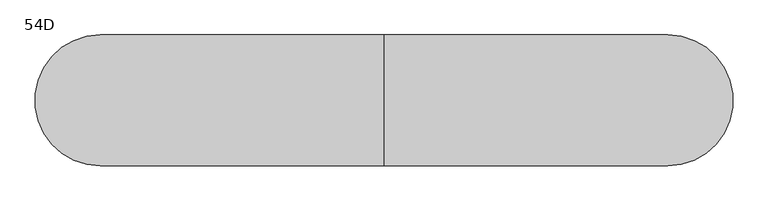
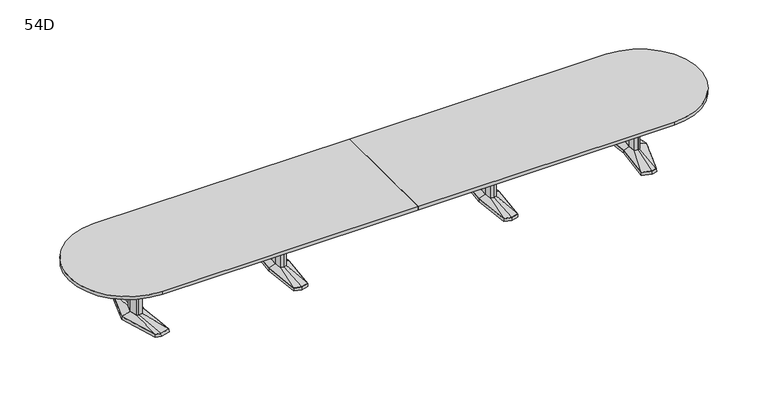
"""IFC4 building model written with IfcOpenShell, lengths in millimetres: furniture geometry, Coalesse_AM_Table_Conference_ETable2_Racetrack_24ft_AluminiumBase : 54D."""

from ifc_helpers import new_model, si_unit, point, frame, frame_2d, origin, place, context, project, spatial, polyline, circle_curve, trimmed, segment, composite_curve, outline, extrude, faceted_brep, source, transform, mapped, element, save
from ifc_brep_helpers import plane_surface, spline_surface, advanced_brep


def furniture_54d_8884b3d5(model_context):
    return source(origin(), model_context, "Body", "SolidModel", [
        faceted_brep([(1137.9666209, -433.8053819, 38.1), (1219.2, -455.556576, 38.1), (1300.4333791, -433.8053819, 38.1), (1338.2564774, 0.0, 38.1), (1300.4333791, 433.8053819, 38.1), (1219.2, 455.556576, 38.1), (1137.9666209, 433.8053819, 38.1), (1100.1435226, 0.0, 38.1), (1136.4817205, -435.0512063, 3.175), (1098.55, 0.0, 3.175), (1136.4817205, 435.0512063, 3.175), (1219.2, 457.2, 3.175), (1301.9182795, 435.0512063, 3.175), (1339.85, 0.0, 3.175), (1301.9182795, -435.0512063, 3.175), (1219.2, -457.2, 3.175), (1219.2, 429.2617927, 3.175), (1141.2323194, 408.3850278, 3.175), (1144.4980179, 382.9646737, 3.175), (1219.2, 402.9670094, 3.175), (1293.9019821, 382.9646737, 3.175), (1297.1676806, 408.3850278, 3.175), (1219.2, -429.2617927, 3.175), (1297.1676806, -408.3850278, 3.175), (1293.9019821, -382.9646737, 3.175), (1219.2, -402.9670094, 3.175), (1144.4980179, -382.9646737, 3.175), (1141.2323194, -408.3850278, 3.175), (1147.3425738, 114.6326257, 3.175), (1136.6573924, 0.0, 3.175), (1147.3425738, -114.6326257, 3.175), (1219.2, -133.8761372, 3.175), (1291.0574262, -114.6326257, 3.175), (1301.7426076, 0.0, 3.175), (1291.0574262, 114.6326257, 3.175), (1219.2, 133.8761372, 3.175), (1219.2, 429.2617927, 0.0), (1297.1676806, 408.3850278, 0.0), (1293.9019821, 382.9646737, 0.0), (1219.2, 402.9670094, 0.0), (1144.4980179, 382.9646737, 0.0), (1141.2323194, 408.3850278, 0.0), (1219.2, -429.2617927, 0.0), (1141.2323194, -408.3850278, 0.0), (1144.4980179, -382.9646737, 0.0), (1219.2, -402.9670094, 0.0), (1293.9019821, -382.9646737, 0.0), (1297.1676806, -408.3850278, 0.0), (1147.3425738, 114.6326257, 0.0), (1219.2, 133.8761372, 0.0), (1291.0574262, 114.6326257, 0.0), (1301.7426076, 0.0, 0.0), (1291.0574262, -114.6326257, 0.0), (1219.2, -133.8761372, 0.0), (1147.3425738, -114.6326257, 0.0), (1136.6573924, 0.0, 0.0)], [[[0, 1, 2, 3, 4, 5, 6, 7]], [[8, 9, 10, 11, 12, 13, 14, 15], [16, 17, 18, 19, 20, 21], [22, 23, 24, 25, 26, 27], [28, 29, 30, 31, 32, 33, 34, 35]], [[1, 0, 8, 15]], [[2, 1, 15, 14]], [[3, 2, 14, 13]], [[4, 3, 13, 12]], [[5, 4, 12, 11]], [[6, 5, 11, 10]], [[7, 6, 10, 9]], [[0, 7, 9, 8]], [[36, 37, 38, 39, 40, 41]], [[42, 43, 44, 45, 46, 47]], [[48, 49, 50, 51, 52, 53, 54, 55]], [[36, 41, 17, 16]], [[41, 40, 18, 17]], [[40, 39, 19, 18]], [[39, 38, 20, 19]], [[38, 37, 21, 20]], [[37, 36, 16, 21]], [[42, 47, 23, 22]], [[47, 46, 24, 23]], [[46, 45, 25, 24]], [[45, 44, 26, 25]], [[44, 43, 27, 26]], [[43, 42, 22, 27]], [[48, 55, 29, 28]], [[55, 54, 30, 29]], [[54, 53, 31, 30]], [[53, 52, 32, 31]], [[52, 51, 33, 32]], [[51, 50, 34, 33]], [[50, 49, 35, 34]], [[49, 48, 28, 35]]]),
        faceted_brep([(1182.8167166, 84.6900825, 698.5), (1174.9225513, 0.0, 698.5), (1182.8167166, -84.6900825, 698.5), (1219.2, -94.4335728, 698.5), (1255.5832834, -84.6900825, 698.5), (1263.4774487, 0.0, 698.5), (1255.5832834, 84.6900825, 698.5), (1219.2, 94.4335728, 698.5), (1182.8167166, 84.6900825, 63.5), (1219.2, 94.4335728, 63.5), (1255.5832834, 84.6900825, 63.5), (1263.4774487, 0.0, 63.5), (1255.5832834, -84.6900825, 63.5), (1219.2, -94.4335728, 63.5), (1182.8167166, -84.6900825, 63.5), (1174.9225513, 0.0, 63.5)], [[[0, 1, 2, 3, 4, 5, 6, 7]], [[8, 9, 10, 11, 12, 13, 14, 15]], [[1, 0, 8, 15]], [[2, 1, 15, 14]], [[3, 2, 14, 13]], [[4, 3, 13, 12]], [[5, 4, 12, 11]], [[6, 5, 11, 10]], [[7, 6, 10, 9]], [[0, 7, 9, 8]]]),
        advanced_brep(
        [(1182.8167166, 84.6900825, 63.5), (1174.9225513, 0.0, 63.5), (1182.8167166, -84.6900825, 63.5), (1219.2, -94.4335728, 63.5), (1255.5832834, -84.6900825, 63.5), (1263.4774487, 0.0, 63.5), (1255.5832834, 84.6900825, 63.5), (1219.2, 94.4335728, 63.5), (1137.9666209, 433.8053819, 38.1), (1219.2, 455.556576, 38.1), (1300.4333791, 433.8053819, 38.1), (1338.2564774, 0.0, 38.1), (1300.4333791, -433.8053819, 38.1), (1219.2, -455.556576, 38.1), (1137.9666209, -433.8053819, 38.1), (1100.1435226, 0.0, 38.1)],
        [
            (0, 1),
            (1, 2),
            (2, 3),
            (3, 4),
            (4, 5),
            (5, 6),
            (6, 7),
            (7, 0),
            (8, 9),
            (9, 10),
            (10, 11),
            (11, 12),
            (12, 13),
            (13, 14),
            (14, 15),
            (15, 8),
            (15, 1),
            (0, 8),
            (14, 2),
            (13, 3),
            (12, 4),
            (11, 5),
            (10, 6),
            (9, 7),
        ],
        [
            plane_surface(frame((1219.2, 0.0, 63.5), z_axis=(0.0, 0.0, 1.0000000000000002), x_axis=(-0.9659615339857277, -0.25868574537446, 0.0))),
            plane_surface(frame((1219.2, 0.0, 38.1), z_axis=(0.0, 0.0, -1.0000000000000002), x_axis=(-0.9659615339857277, -0.25868574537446, 0.0))),
            spline_surface(1, 1, [[(1137.9666209, 433.8053819, 38.1), (1182.8167166, 84.6900825, 63.5)], [(1100.1435226, 0.0, 38.1), (1174.9225513, 0.0, 63.5)]], [2, 2], [2, 2], [0.0, 1.0], [0.0, 1.0]),
            spline_surface(1, 1, [[(1100.1435226, 0.0, 38.1), (1174.9225513, 0.0, 63.5)], [(1137.9666209, -433.8053819, 38.1), (1182.8167166, -84.6900825, 63.5)]], [2, 2], [2, 2], [0.0, 1.0], [0.0, 1.0]),
            spline_surface(1, 1, [[(1137.9666209, -433.8053819, 38.1), (1182.8167166, -84.6900825, 63.5)], [(1219.2, -455.556576, 38.1), (1219.2, -94.4335728, 63.5)]], [2, 2], [2, 2], [0.0, 1.0], [0.0, 1.0]),
            spline_surface(1, 1, [[(1219.2, -455.556576, 38.1), (1219.2, -94.4335728, 63.5)], [(1300.4333791, -433.8053819, 38.1), (1255.5832834, -84.6900825, 63.5)]], [2, 2], [2, 2], [0.0, 1.0], [0.0, 1.0]),
            spline_surface(1, 1, [[(1300.4333791, -433.8053819, 38.1), (1255.5832834, -84.6900825, 63.5)], [(1338.2564774, 0.0, 38.1), (1263.4774487, 0.0, 63.5)]], [2, 2], [2, 2], [0.0, 1.0], [0.0, 1.0]),
            spline_surface(1, 1, [[(1338.2564774, 0.0, 38.1), (1263.4774487, 0.0, 63.5)], [(1300.4333791, 433.8053819, 38.1), (1255.5832834, 84.6900825, 63.5)]], [2, 2], [2, 2], [0.0, 1.0], [0.0, 1.0]),
            spline_surface(1, 1, [[(1300.4333791, 433.8053819, 38.1), (1255.5832834, 84.6900825, 63.5)], [(1219.2, 455.556576, 38.1), (1219.2, 94.4335728, 63.5)]], [2, 2], [2, 2], [0.0, 1.0], [0.0, 1.0]),
            spline_surface(1, 1, [[(1219.2, 455.556576, 38.1), (1219.2, 94.4335728, 63.5)], [(1137.9666209, 433.8053819, 38.1), (1182.8167166, 84.6900825, 63.5)]], [2, 2], [2, 2], [0.0, 1.0], [0.0, 1.0]),
        ],
        [
            (0, [[1, 2, 3, 4, 5, 6, 7, 8]]),
            (1, [[9, 10, 11, 12, 13, 14, 15, 16]]),
            (2, [[-16, 17, -1, 18]]),
            (3, [[-15, 19, -2, -17]]),
            (4, [[-14, 20, -3, -19]]),
            (5, [[-13, 21, -4, -20]]),
            (6, [[-12, 22, -5, -21]]),
            (7, [[-11, 23, -6, -22]]),
            (8, [[-10, 24, -7, -23]]),
            (9, [[-9, -18, -8, -24]]),
        ],
    ),
        faceted_brep([(-1300.4333791, -433.8053819, 38.1), (-1219.2, -455.556576, 38.1), (-1137.9666209, -433.8053819, 38.1), (-1100.1435226, 0.0, 38.1), (-1137.9666209, 433.8053819, 38.1), (-1219.2, 455.556576, 38.1), (-1300.4333791, 433.8053819, 38.1), (-1338.2564774, 0.0, 38.1), (-1301.9182795, -435.0512063, 3.175), (-1339.85, 0.0, 3.175), (-1301.9182795, 435.0512063, 3.175), (-1219.2, 457.2, 3.175), (-1136.4817205, 435.0512063, 3.175), (-1098.55, 0.0, 3.175), (-1136.4817205, -435.0512063, 3.175), (-1219.2, -457.2, 3.175), (-1219.2, 429.2617927, 3.175), (-1297.1676806, 408.3850278, 3.175), (-1293.9019821, 382.9646737, 3.175), (-1219.2, 402.9670094, 3.175), (-1144.4980179, 382.9646737, 3.175), (-1141.2323194, 408.3850278, 3.175), (-1219.2, -429.2617927, 3.175), (-1141.2323194, -408.3850278, 3.175), (-1144.4980179, -382.9646737, 3.175), (-1219.2, -402.9670094, 3.175), (-1293.9019821, -382.9646737, 3.175), (-1297.1676806, -408.3850278, 3.175), (-1291.0574262, 114.6326257, 3.175), (-1301.7426076, 0.0, 3.175), (-1291.0574262, -114.6326257, 3.175), (-1219.2, -133.8761372, 3.175), (-1147.3425738, -114.6326257, 3.175), (-1136.6573924, 0.0, 3.175), (-1147.3425738, 114.6326257, 3.175), (-1219.2, 133.8761372, 3.175), (-1219.2, 429.2617927, 0.0), (-1141.2323194, 408.3850278, 0.0), (-1144.4980179, 382.9646737, 0.0), (-1219.2, 402.9670094, 0.0), (-1293.9019821, 382.9646737, 0.0), (-1297.1676806, 408.3850278, 0.0), (-1219.2, -429.2617927, 0.0), (-1297.1676806, -408.3850278, 0.0), (-1293.9019821, -382.9646737, 0.0), (-1219.2, -402.9670094, 0.0), (-1144.4980179, -382.9646737, 0.0), (-1141.2323194, -408.3850278, 0.0), (-1291.0574262, 114.6326257, 0.0), (-1219.2, 133.8761372, 0.0), (-1147.3425738, 114.6326257, 0.0), (-1136.6573924, 0.0, 0.0), (-1147.3425738, -114.6326257, 0.0), (-1219.2, -133.8761372, 0.0), (-1291.0574262, -114.6326257, 0.0), (-1301.7426076, 0.0, 0.0)], [[[0, 1, 2, 3, 4, 5, 6, 7]], [[8, 9, 10, 11, 12, 13, 14, 15], [16, 17, 18, 19, 20, 21], [22, 23, 24, 25, 26, 27], [28, 29, 30, 31, 32, 33, 34, 35]], [[1, 0, 8, 15]], [[2, 1, 15, 14]], [[3, 2, 14, 13]], [[4, 3, 13, 12]], [[5, 4, 12, 11]], [[6, 5, 11, 10]], [[7, 6, 10, 9]], [[0, 7, 9, 8]], [[36, 37, 38, 39, 40, 41]], [[42, 43, 44, 45, 46, 47]], [[48, 49, 50, 51, 52, 53, 54, 55]], [[36, 41, 17, 16]], [[41, 40, 18, 17]], [[40, 39, 19, 18]], [[39, 38, 20, 19]], [[38, 37, 21, 20]], [[37, 36, 16, 21]], [[42, 47, 23, 22]], [[47, 46, 24, 23]], [[46, 45, 25, 24]], [[45, 44, 26, 25]], [[44, 43, 27, 26]], [[43, 42, 22, 27]], [[48, 55, 29, 28]], [[55, 54, 30, 29]], [[54, 53, 31, 30]], [[53, 52, 32, 31]], [[52, 51, 33, 32]], [[51, 50, 34, 33]], [[50, 49, 35, 34]], [[49, 48, 28, 35]]]),
        faceted_brep([(-1255.5832834, 84.6900825, 698.5), (-1263.4774487, 0.0, 698.5), (-1255.5832834, -84.6900825, 698.5), (-1219.2, -94.4335728, 698.5), (-1182.8167166, -84.6900825, 698.5), (-1174.9225513, 0.0, 698.5), (-1182.8167166, 84.6900825, 698.5), (-1219.2, 94.4335728, 698.5), (-1255.5832834, 84.6900825, 63.5), (-1219.2, 94.4335728, 63.5), (-1182.8167166, 84.6900825, 63.5), (-1174.9225513, 0.0, 63.5), (-1182.8167166, -84.6900825, 63.5), (-1219.2, -94.4335728, 63.5), (-1255.5832834, -84.6900825, 63.5), (-1263.4774487, 0.0, 63.5)], [[[0, 1, 2, 3, 4, 5, 6, 7]], [[8, 9, 10, 11, 12, 13, 14, 15]], [[1, 0, 8, 15]], [[2, 1, 15, 14]], [[3, 2, 14, 13]], [[4, 3, 13, 12]], [[5, 4, 12, 11]], [[6, 5, 11, 10]], [[7, 6, 10, 9]], [[0, 7, 9, 8]]]),
        advanced_brep(
        [(-1255.5832834, 84.6900825, 63.5), (-1263.4774487, 0.0, 63.5), (-1255.5832834, -84.6900825, 63.5), (-1219.2, -94.4335728, 63.5), (-1182.8167166, -84.6900825, 63.5), (-1174.9225513, 0.0, 63.5), (-1182.8167166, 84.6900825, 63.5), (-1219.2, 94.4335728, 63.5), (-1300.4333791, 433.8053819, 38.1), (-1219.2, 455.556576, 38.1), (-1137.9666209, 433.8053819, 38.1), (-1100.1435226, 0.0, 38.1), (-1137.9666209, -433.8053819, 38.1), (-1219.2, -455.556576, 38.1), (-1300.4333791, -433.8053819, 38.1), (-1338.2564774, 0.0, 38.1)],
        [
            (0, 1),
            (1, 2),
            (2, 3),
            (3, 4),
            (4, 5),
            (5, 6),
            (6, 7),
            (7, 0),
            (8, 9),
            (9, 10),
            (10, 11),
            (11, 12),
            (12, 13),
            (13, 14),
            (14, 15),
            (15, 8),
            (15, 1),
            (0, 8),
            (14, 2),
            (13, 3),
            (12, 4),
            (11, 5),
            (10, 6),
            (9, 7),
        ],
        [
            plane_surface(frame((-1219.2, 0.0, 63.5), z_axis=(0.0, 0.0, 1.0000000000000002), x_axis=(-0.9659615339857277, -0.25868574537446, 0.0))),
            plane_surface(frame((-1219.2, 0.0, 38.1), z_axis=(0.0, 0.0, -1.0000000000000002), x_axis=(-0.9659615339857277, -0.25868574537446, 0.0))),
            spline_surface(1, 1, [[(-1300.4333791, 433.8053819, 38.1), (-1255.5832834, 84.6900825, 63.5)], [(-1338.2564774, 0.0, 38.1), (-1263.4774487, 0.0, 63.5)]], [2, 2], [2, 2], [0.0, 1.0], [0.0, 1.0]),
            spline_surface(1, 1, [[(-1338.2564774, 0.0, 38.1), (-1263.4774487, 0.0, 63.5)], [(-1300.4333791, -433.8053819, 38.1), (-1255.5832834, -84.6900825, 63.5)]], [2, 2], [2, 2], [0.0, 1.0], [0.0, 1.0]),
            spline_surface(1, 1, [[(-1300.4333791, -433.8053819, 38.1), (-1255.5832834, -84.6900825, 63.5)], [(-1219.2, -455.556576, 38.1), (-1219.2, -94.4335728, 63.5)]], [2, 2], [2, 2], [0.0, 1.0], [0.0, 1.0]),
            spline_surface(1, 1, [[(-1219.2, -455.556576, 38.1), (-1219.2, -94.4335728, 63.5)], [(-1137.9666209, -433.8053819, 38.1), (-1182.8167166, -84.6900825, 63.5)]], [2, 2], [2, 2], [0.0, 1.0], [0.0, 1.0]),
            spline_surface(1, 1, [[(-1137.9666209, -433.8053819, 38.1), (-1182.8167166, -84.6900825, 63.5)], [(-1100.1435226, 0.0, 38.1), (-1174.9225513, 0.0, 63.5)]], [2, 2], [2, 2], [0.0, 1.0], [0.0, 1.0]),
            spline_surface(1, 1, [[(-1100.1435226, 0.0, 38.1), (-1174.9225513, 0.0, 63.5)], [(-1137.9666209, 433.8053819, 38.1), (-1182.8167166, 84.6900825, 63.5)]], [2, 2], [2, 2], [0.0, 1.0], [0.0, 1.0]),
            spline_surface(1, 1, [[(-1137.9666209, 433.8053819, 38.1), (-1182.8167166, 84.6900825, 63.5)], [(-1219.2, 455.556576, 38.1), (-1219.2, 94.4335728, 63.5)]], [2, 2], [2, 2], [0.0, 1.0], [0.0, 1.0]),
            spline_surface(1, 1, [[(-1219.2, 455.556576, 38.1), (-1219.2, 94.4335728, 63.5)], [(-1300.4333791, 433.8053819, 38.1), (-1255.5832834, 84.6900825, 63.5)]], [2, 2], [2, 2], [0.0, 1.0], [0.0, 1.0]),
        ],
        [
            (0, [[1, 2, 3, 4, 5, 6, 7, 8]]),
            (1, [[9, 10, 11, 12, 13, 14, 15, 16]]),
            (2, [[-16, 17, -1, 18]]),
            (3, [[-15, 19, -2, -17]]),
            (4, [[-14, 20, -3, -19]]),
            (5, [[-13, 21, -4, -20]]),
            (6, [[-12, 22, -5, -21]]),
            (7, [[-11, 23, -6, -22]]),
            (8, [[-10, 24, -7, -23]]),
            (9, [[-9, -18, -8, -24]]),
        ],
    ),
        faceted_brep([(2852.8994335, 455.5848221, 38.1), (2743.3218777, 426.2263816, 38.1), (2784.4851217, 0.0, 38.1), (2743.3218777, -426.2263816, 38.1), (2852.8994335, -455.5848221, 38.1), (2909.0257896, -440.5478297, 38.1), (3046.3371769, 0.0, 38.1), (2909.0257896, 440.5478297, 38.1), (2852.8994254, 457.2283104, 3.175), (2910.2811972, 441.8549756, 3.175), (3048.0, 0.0, 3.175), (2910.2811972, -441.8549756, 3.175), (2852.8994254, -457.2283104, 3.175), (2741.6125, -427.4118891, 3.175), (2782.8902356, 0.0, 3.175), (2741.6125, 427.4118891, 3.175), (2856.488865, 428.3273875, 3.175), (2751.4405728, 402.1057253, 3.175), (2759.559268, 377.985069, 3.175), (2860.0782966, 401.0699529, 3.175), (2910.6379225, 387.524361, 3.175), (2909.8318561, 414.0360954, 3.175), (2856.488865, -428.3273875, 3.175), (2909.8318561, -414.0360954, 3.175), (2910.6379225, -387.524361, 3.175), (2860.0782966, -401.0699529, 3.175), (2759.559268, -377.985069, 3.175), (2751.4405728, -402.1057253, 3.175), (2983.0841121, 0.0, 3.175), (2950.8147111, 120.4193755, 3.175), (2902.1674722, 133.471665, 3.175), (2822.2868026, 119.4176561, 3.175), (2811.1555966, 0.0, 3.175), (2822.2868026, -119.4176561, 3.175), (2902.1674722, -133.471665, 3.175), (2950.8147111, -120.4193755, 3.175), (2856.488865, 428.3273875, 0.0), (2909.8318561, 414.0360954, 0.0), (2910.6379225, 387.524361, 0.0), (2860.0782966, 401.0699529, 0.0), (2759.559268, 377.985069, 0.0), (2751.4405728, 402.1057253, 0.0), (2856.488865, -428.3273875, 0.0), (2751.4405728, -402.1057253, 0.0), (2759.559268, -377.985069, 0.0), (2860.0782966, -401.0699529, 0.0), (2910.6379225, -387.524361, 0.0), (2909.8318561, -414.0360954, 0.0), (2983.0841121, 0.0, 0.0), (2950.8147111, -120.4193755, 0.0), (2902.1674722, -133.471665, 0.0), (2822.2868026, -119.4176561, 0.0), (2811.1555966, 0.0, 0.0), (2822.2868026, 119.4176561, 0.0), (2902.1674722, 133.471665, 0.0), (2950.8147111, 120.4193755, 0.0)], [[[0, 1, 2, 3, 4, 5, 6, 7]], [[8, 9, 10, 11, 12, 13, 14, 15], [16, 17, 18, 19, 20, 21], [22, 23, 24, 25, 26, 27], [28, 29, 30, 31, 32, 33, 34, 35]], [[7, 9, 8, 0]], [[6, 10, 9, 7]], [[5, 11, 10, 6]], [[4, 12, 11, 5]], [[3, 13, 12, 4]], [[2, 14, 13, 3]], [[1, 15, 14, 2]], [[0, 8, 15, 1]], [[36, 37, 38, 39, 40, 41]], [[42, 43, 44, 45, 46, 47]], [[48, 49, 50, 51, 52, 53, 54, 55]], [[36, 16, 21, 37]], [[37, 21, 20, 38]], [[38, 20, 19, 39]], [[39, 19, 18, 40]], [[40, 18, 17, 41]], [[41, 17, 16, 36]], [[42, 22, 27, 43]], [[43, 27, 26, 44]], [[44, 26, 25, 45]], [[45, 25, 24, 46]], [[46, 24, 23, 47]], [[47, 23, 22, 42]], [[48, 28, 35, 49]], [[49, 35, 34, 50]], [[50, 34, 33, 51]], [[51, 33, 32, 52]], [[52, 32, 31, 53]], [[53, 31, 30, 54]], [[54, 30, 29, 55]], [[55, 29, 28, 48]]]),
        faceted_brep([(2943.6398336, 0.0, 698.5), (2919.7046046, 89.3188359, 698.5), (2902.8512484, 93.8406728, 698.5), (2900.4514011, 94.4845635, 698.5), (2857.523896, 86.9320037, 698.5), (2849.4207556, 0.0, 698.5), (2857.523896, -86.9320037, 698.5), (2900.4514011, -94.4845635, 698.5), (2902.8512484, -93.8406728, 698.5), (2919.7046046, -89.3188359, 698.5), (2943.6398336, 0.0, 63.5), (2919.7046046, -89.3188359, 63.5), (2902.8512484, -93.8406728, 63.5), (2900.4514011, -94.4845635, 63.5), (2857.523896, -86.9320037, 63.5), (2849.4207556, 0.0, 63.5), (2857.523896, 86.9320037, 63.5), (2900.4514011, 94.4845635, 63.5), (2902.8512484, 93.8406728, 63.5), (2919.7046046, 89.3188359, 63.5)], [[[0, 1, 2, 3, 4, 5, 6, 7, 8, 9]], [[10, 11, 12, 13, 14, 15, 16, 17, 18, 19]], [[9, 11, 10, 0]], [[8, 12, 11, 9]], [[7, 13, 12, 8]], [[6, 14, 13, 7]], [[5, 15, 14, 6]], [[4, 16, 15, 5]], [[3, 17, 16, 4]], [[2, 18, 17, 3]], [[1, 19, 18, 2]], [[0, 10, 19, 1]]]),
        advanced_brep(
        [(2900.4514011, 94.4845635, 63.5), (2857.523896, 86.9320037, 63.5), (2849.4207556, 0.0, 63.5), (2857.523896, -86.9320037, 63.5), (2900.4514011, -94.4845635, 63.5), (2919.7046046, -89.3188359, 63.5), (2943.6398336, 0.0, 63.5), (2919.7046046, 89.3188359, 63.5), (2852.8994335, 455.5848221, 38.1), (2909.0257896, 440.5478297, 38.1), (3046.3371769, 0.0, 38.1), (2909.0257896, -440.5478297, 38.1), (2852.8994335, -455.5848221, 38.1), (2743.3218777, -426.2263816, 38.1), (2784.4851217, 0.0, 38.1), (2743.3218777, 426.2263816, 38.1)],
        [
            (0, 1),
            (1, 2),
            (2, 3),
            (3, 4),
            (4, 5),
            (5, 6),
            (6, 7),
            (7, 0),
            (8, 9),
            (9, 10),
            (10, 11),
            (11, 12),
            (12, 13),
            (13, 14),
            (14, 15),
            (15, 8),
            (8, 0),
            (7, 9),
            (6, 10),
            (5, 11),
            (4, 12),
            (3, 13),
            (2, 14),
            (1, 15),
        ],
        [
            plane_surface(frame((2893.5525491, 0.0, 63.5), z_axis=(0.0, 0.0, 1.0), x_axis=(-0.25884244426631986, -0.9659195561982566, 0.0))),
            plane_surface(frame((2855.1645625, 0.0, 38.1), z_axis=(0.0, 0.0, -1.0), x_axis=(-0.25884244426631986, -0.9659195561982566, 0.0))),
            spline_surface(1, 1, [[(2852.8994335, 455.5848221, 38.1), (2909.0257896, 440.5478297, 38.1)], [(2900.4514011, 94.4845635, 63.5), (2919.7046046, 89.3188359, 63.5)]], [2, 2], [2, 2], [0.0, 1.0], [0.0, 1.0]),
            spline_surface(1, 1, [[(2909.0257896, 440.5478297, 38.1), (3046.3371769, 0.0, 38.1)], [(2919.7046046, 89.3188359, 63.5), (2943.6398336, 0.0, 63.5)]], [2, 2], [2, 2], [0.0, 1.0], [0.0, 1.0]),
            spline_surface(1, 1, [[(3046.3371769, 0.0, 38.1), (2909.0257896, -440.5478297, 38.1)], [(2943.6398336, 0.0, 63.5), (2919.7046046, -89.3188359, 63.5)]], [2, 2], [2, 2], [0.0, 1.0], [0.0, 1.0]),
            spline_surface(1, 1, [[(2909.0257896, -440.5478297, 38.1), (2852.8994335, -455.5848221, 38.1)], [(2919.7046046, -89.3188359, 63.5), (2900.4514011, -94.4845635, 63.5)]], [2, 2], [2, 2], [0.0, 1.0], [0.0, 1.0]),
            spline_surface(1, 1, [[(2852.8994335, -455.5848221, 38.1), (2743.3218777, -426.2263816, 38.1)], [(2900.4514011, -94.4845635, 63.5), (2857.523896, -86.9320037, 63.5)]], [2, 2], [2, 2], [0.0, 1.0], [0.0, 1.0]),
            spline_surface(1, 1, [[(2743.3218777, -426.2263816, 38.1), (2784.4851217, 0.0, 38.1)], [(2857.523896, -86.9320037, 63.5), (2849.4207556, 0.0, 63.5)]], [2, 2], [2, 2], [0.0, 1.0], [0.0, 1.0]),
            spline_surface(1, 1, [[(2784.4851217, 0.0, 38.1), (2743.3218777, 426.2263816, 38.1)], [(2849.4207556, 0.0, 63.5), (2857.523896, 86.9320037, 63.5)]], [2, 2], [2, 2], [0.0, 1.0], [0.0, 1.0]),
            spline_surface(1, 1, [[(2743.3218777, 426.2263816, 38.1), (2852.8994335, 455.5848221, 38.1)], [(2857.523896, 86.9320037, 63.5), (2900.4514011, 94.4845635, 63.5)]], [2, 2], [2, 2], [0.0, 1.0], [0.0, 1.0]),
        ],
        [
            (0, [[1, 2, 3, 4, 5, 6, 7, 8]]),
            (1, [[9, 10, 11, 12, 13, 14, 15, 16]]),
            (2, [[17, -8, 18, -9]]),
            (3, [[-18, -7, 19, -10]]),
            (4, [[-19, -6, 20, -11]]),
            (5, [[-20, -5, 21, -12]]),
            (6, [[-21, -4, 22, -13]]),
            (7, [[-22, -3, 23, -14]]),
            (8, [[-23, -2, 24, -15]]),
            (9, [[-24, -1, -17, -16]]),
        ],
    ),
        faceted_brep([(-2852.8994335, 455.5848221, 38.1), (-2909.0257896, 440.5478297, 38.1), (-3046.3371769, 0.0, 38.1), (-2909.0257896, -440.5478297, 38.1), (-2852.8994335, -455.5848221, 38.1), (-2743.3218777, -426.2263816, 38.1), (-2784.4851217, 0.0, 38.1), (-2743.3218777, 426.2263816, 38.1), (-2852.8994254, 457.2283104, 3.175), (-2741.6125, 427.4118891, 3.175), (-2782.8902356, 0.0, 3.175), (-2741.6125, -427.4118891, 3.175), (-2852.8994254, -457.2283104, 3.175), (-2910.2811972, -441.8549756, 3.175), (-3048.0, 0.0, 3.175), (-2910.2811972, 441.8549756, 3.175), (-2856.488865, 428.3273875, 3.175), (-2909.8318561, 414.0360954, 3.175), (-2910.6379225, 387.524361, 3.175), (-2860.0782966, 401.0699529, 3.175), (-2759.559268, 377.985069, 3.175), (-2751.4405728, 402.1057253, 3.175), (-2856.488865, -428.3273875, 3.175), (-2751.4405728, -402.1057253, 3.175), (-2759.559268, -377.985069, 3.175), (-2860.0782966, -401.0699529, 3.175), (-2910.6379225, -387.524361, 3.175), (-2909.8318561, -414.0360954, 3.175), (-2983.0841121, 0.0, 3.175), (-2950.8147111, -120.4193755, 3.175), (-2902.1674722, -133.471665, 3.175), (-2822.2868026, -119.4176561, 3.175), (-2811.1555966, 0.0, 3.175), (-2822.2868026, 119.4176561, 3.175), (-2902.1674722, 133.471665, 3.175), (-2950.8147111, 120.4193755, 3.175), (-2856.488865, 428.3273875, 0.0), (-2751.4405728, 402.1057253, 0.0), (-2759.559268, 377.985069, 0.0), (-2860.0782966, 401.0699529, 0.0), (-2910.6379225, 387.524361, 0.0), (-2909.8318561, 414.0360954, 0.0), (-2856.488865, -428.3273875, 0.0), (-2909.8318561, -414.0360954, 0.0), (-2910.6379225, -387.524361, 0.0), (-2860.0782966, -401.0699529, 0.0), (-2759.559268, -377.985069, 0.0), (-2751.4405728, -402.1057253, 0.0), (-2983.0841121, 0.0, 0.0), (-2950.8147111, 120.4193755, 0.0), (-2902.1674722, 133.471665, 0.0), (-2822.2868026, 119.4176561, 0.0), (-2811.1555966, 0.0, 0.0), (-2822.2868026, -119.4176561, 0.0), (-2902.1674722, -133.471665, 0.0), (-2950.8147111, -120.4193755, 0.0)], [[[0, 1, 2, 3, 4, 5, 6, 7]], [[8, 9, 10, 11, 12, 13, 14, 15], [16, 17, 18, 19, 20, 21], [22, 23, 24, 25, 26, 27], [28, 29, 30, 31, 32, 33, 34, 35]], [[1, 0, 8, 15]], [[2, 1, 15, 14]], [[3, 2, 14, 13]], [[4, 3, 13, 12]], [[5, 4, 12, 11]], [[6, 5, 11, 10]], [[7, 6, 10, 9]], [[0, 7, 9, 8]], [[36, 37, 38, 39, 40, 41]], [[42, 43, 44, 45, 46, 47]], [[48, 49, 50, 51, 52, 53, 54, 55]], [[36, 41, 17, 16]], [[41, 40, 18, 17]], [[40, 39, 19, 18]], [[39, 38, 20, 19]], [[38, 37, 21, 20]], [[37, 36, 16, 21]], [[42, 47, 23, 22]], [[47, 46, 24, 23]], [[46, 45, 25, 24]], [[45, 44, 26, 25]], [[44, 43, 27, 26]], [[43, 42, 22, 27]], [[48, 55, 29, 28]], [[55, 54, 30, 29]], [[54, 53, 31, 30]], [[53, 52, 32, 31]], [[52, 51, 33, 32]], [[51, 50, 34, 33]], [[50, 49, 35, 34]], [[49, 48, 28, 35]]]),
        faceted_brep([(-2943.6398336, 0.0, 698.5), (-2919.7046046, -89.3188359, 698.5), (-2902.8512484, -93.8406728, 698.5), (-2900.4514011, -94.4845635, 698.5), (-2857.523896, -86.9320037, 698.5), (-2849.4207556, 0.0, 698.5), (-2857.523896, 86.9320037, 698.5), (-2900.4514011, 94.4845635, 698.5), (-2902.8512484, 93.8406728, 698.5), (-2919.7046046, 89.3188359, 698.5), (-2943.6398336, 0.0, 63.5), (-2919.7046046, 89.3188359, 63.5), (-2902.8512484, 93.8406728, 63.5), (-2900.4514011, 94.4845635, 63.5), (-2857.523896, 86.9320037, 63.5), (-2849.4207556, 0.0, 63.5), (-2857.523896, -86.9320037, 63.5), (-2900.4514011, -94.4845635, 63.5), (-2902.8512484, -93.8406728, 63.5), (-2919.7046046, -89.3188359, 63.5)], [[[0, 1, 2, 3, 4, 5, 6, 7, 8, 9]], [[10, 11, 12, 13, 14, 15, 16, 17, 18, 19]], [[1, 0, 10, 19]], [[2, 1, 19, 18]], [[3, 2, 18, 17]], [[4, 3, 17, 16]], [[5, 4, 16, 15]], [[6, 5, 15, 14]], [[7, 6, 14, 13]], [[8, 7, 13, 12]], [[9, 8, 12, 11]], [[0, 9, 11, 10]]]),
        advanced_brep(
        [(-2900.4514011, 94.4845635, 63.5), (-2919.7046046, 89.3188359, 63.5), (-2943.6398336, 0.0, 63.5), (-2919.7046046, -89.3188359, 63.5), (-2900.4514011, -94.4845635, 63.5), (-2857.523896, -86.9320037, 63.5), (-2849.4207556, 0.0, 63.5), (-2857.523896, 86.9320037, 63.5), (-2852.8994335, 455.5848221, 38.1), (-2743.3218777, 426.2263816, 38.1), (-2784.4851217, 0.0, 38.1), (-2743.3218777, -426.2263816, 38.1), (-2852.8994335, -455.5848221, 38.1), (-2909.0257896, -440.5478297, 38.1), (-3046.3371769, 0.0, 38.1), (-2909.0257896, 440.5478297, 38.1)],
        [
            (0, 1),
            (1, 2),
            (2, 3),
            (3, 4),
            (4, 5),
            (5, 6),
            (6, 7),
            (7, 0),
            (8, 9),
            (9, 10),
            (10, 11),
            (11, 12),
            (12, 13),
            (13, 14),
            (14, 15),
            (15, 8),
            (15, 1),
            (0, 8),
            (14, 2),
            (13, 3),
            (12, 4),
            (11, 5),
            (10, 6),
            (9, 7),
        ],
        [
            plane_surface(frame((-2893.5525491, 0.0, 63.5), z_axis=(0.0, 0.0, 1.0), x_axis=(0.25884244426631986, -0.9659195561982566, 0.0))),
            plane_surface(frame((-2855.1645625, 0.0, 38.1), z_axis=(0.0, 0.0, -1.0), x_axis=(0.25884244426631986, -0.9659195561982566, 0.0))),
            spline_surface(1, 1, [[(-2852.8994335, 455.5848221, 38.1), (-2900.4514011, 94.4845635, 63.5)], [(-2909.0257896, 440.5478297, 38.1), (-2919.7046046, 89.3188359, 63.5)]], [2, 2], [2, 2], [0.0, 1.0], [0.0, 1.0]),
            spline_surface(1, 1, [[(-2909.0257896, 440.5478297, 38.1), (-2919.7046046, 89.3188359, 63.5)], [(-3046.3371769, 0.0, 38.1), (-2943.6398336, 0.0, 63.5)]], [2, 2], [2, 2], [0.0, 1.0], [0.0, 1.0]),
            spline_surface(1, 1, [[(-3046.3371769, 0.0, 38.1), (-2943.6398336, 0.0, 63.5)], [(-2909.0257896, -440.5478297, 38.1), (-2919.7046046, -89.3188359, 63.5)]], [2, 2], [2, 2], [0.0, 1.0], [0.0, 1.0]),
            spline_surface(1, 1, [[(-2909.0257896, -440.5478297, 38.1), (-2919.7046046, -89.3188359, 63.5)], [(-2852.8994335, -455.5848221, 38.1), (-2900.4514011, -94.4845635, 63.5)]], [2, 2], [2, 2], [0.0, 1.0], [0.0, 1.0]),
            spline_surface(1, 1, [[(-2852.8994335, -455.5848221, 38.1), (-2900.4514011, -94.4845635, 63.5)], [(-2743.3218777, -426.2263816, 38.1), (-2857.523896, -86.9320037, 63.5)]], [2, 2], [2, 2], [0.0, 1.0], [0.0, 1.0]),
            spline_surface(1, 1, [[(-2743.3218777, -426.2263816, 38.1), (-2857.523896, -86.9320037, 63.5)], [(-2784.4851217, 0.0, 38.1), (-2849.4207556, 0.0, 63.5)]], [2, 2], [2, 2], [0.0, 1.0], [0.0, 1.0]),
            spline_surface(1, 1, [[(-2784.4851217, 0.0, 38.1), (-2849.4207556, 0.0, 63.5)], [(-2743.3218777, 426.2263816, 38.1), (-2857.523896, 86.9320037, 63.5)]], [2, 2], [2, 2], [0.0, 1.0], [0.0, 1.0]),
            spline_surface(1, 1, [[(-2743.3218777, 426.2263816, 38.1), (-2857.523896, 86.9320037, 63.5)], [(-2852.8994335, 455.5848221, 38.1), (-2900.4514011, 94.4845635, 63.5)]], [2, 2], [2, 2], [0.0, 1.0], [0.0, 1.0]),
        ],
        [
            (0, [[1, 2, 3, 4, 5, 6, 7, 8]]),
            (1, [[9, 10, 11, 12, 13, 14, 15, 16]]),
            (2, [[-16, 17, -1, 18]]),
            (3, [[-15, 19, -2, -17]]),
            (4, [[-14, 20, -3, -19]]),
            (5, [[-13, 21, -4, -20]]),
            (6, [[-12, 22, -5, -21]]),
            (7, [[-11, 23, -6, -22]]),
            (8, [[-10, 24, -7, -23]]),
            (9, [[-9, -18, -8, -24]]),
        ],
    ),
        extrude(outline(polyline([(96.8375, 698.5), (103.1875, 698.5), (103.1875, 476.25), (-103.1875, 476.25), (-103.1875, 698.5), (-96.8375, 698.5), (-96.8375, 482.6), (96.8375, 482.6), (96.8375, 698.5)])), frame((-1174.9225513, 0.0, 0.0), z_axis=(1.0, 0.0, 0.0), x_axis=(0.0, 1.0, 0.0)), (0.0, 0.0, 1.0), 2349.8451026),
        extrude(outline(polyline([(96.8375, 698.5), (103.1875, 698.5), (103.1875, 476.25), (-103.1875, 476.25), (-103.1875, 698.5), (-96.8375, 698.5), (-96.8375, 482.6), (96.8375, 482.6), (96.8375, 698.5)])), frame((1263.4774487, 0.0, 0.0), z_axis=(1.0, 0.0, 0.0), x_axis=(0.0, 1.0, 0.0)), (0.0, 0.0, 1.0), 1586.0850513),
        extrude(outline(composite_curve([segment(trimmed(circle_curve(frame_2d((2971.8, 0.0)), 685.8), [point((2971.8, 685.8))], [point((2971.8, -685.8))], False, "CARTESIAN"), True, "CONTINUOUS"), segment(polyline([(2971.8, -685.8), (0.0, -685.8), (0.0, 685.8), (2971.8, 685.8)]), True, "CONTINUOUS")], self_intersect=False)), frame((0.0, 0.0, 698.5), z_axis=(0.0, 0.0, 1.0), x_axis=(1.0, 0.0, 0.0)), (0.0, 0.0, 1.0), 38.1),
        extrude(outline(composite_curve([segment(polyline([(0.0, 685.8), (0.0, -685.8), (-2971.8, -685.8)]), True, "CONTINUOUS"), segment(trimmed(circle_curve(frame_2d((-2971.8, 0.0)), 685.8), [point((-2971.8, -685.8))], [point((-2971.8, 685.8))], False, "CARTESIAN"), True, "CONTINUOUS"), segment(polyline([(-2971.8, 685.8), (0.0, 685.8)]), True, "CONTINUOUS")], self_intersect=False)), frame((0.0, 0.0, 698.5), z_axis=(0.0, 0.0, 1.0), x_axis=(1.0, 0.0, 0.0)), (0.0, 0.0, 1.0), 38.1),
        extrude(outline(polyline([(96.8375, 698.5), (103.1875, 698.5), (103.1875, 476.25), (-103.1875, 476.25), (-103.1875, 698.5), (-96.8375, 698.5), (-96.8375, 482.6), (96.8375, 482.6), (96.8375, 698.5)])), frame((-2849.5625, 0.0, 0.0), z_axis=(1.0, 0.0, 0.0), x_axis=(0.0, 1.0, 0.0)), (0.0, 0.0, 1.0), 1586.0850513),
    ])


if __name__ == "__main__":
    model = new_model("IFC4")
    model_context = context("Model", 3, world=origin())
    ifc_project = project(units=[si_unit("LENGTHUNIT", "METRE", prefix="MILLI")], contexts=[model_context])
    site = spatial("IfcSite", under=ifc_project)
    building = spatial("IfcBuilding", under=site)
    placement = place(None, origin())
    furniture_54d_shape = furniture_54d_8884b3d5(model_context)
    element("IfcFurniture", 1, ObjectType="Coalesse_AM_Table_Conference_ETable2_Racetrack_24ft_AluminiumBase : 54D", at=placement, inside=building, context=model_context, shape_type="MappedRepresentation", body=[
        mapped(furniture_54d_shape, transform((0.0, 0.0, 0.0), x_axis=(1.0, 0.0, 0.0), y_axis=(0.0, 1.0, 0.0), z_axis=(0.0, 0.0, 1.0))),
    ])
    save(model, "model.ifc")
